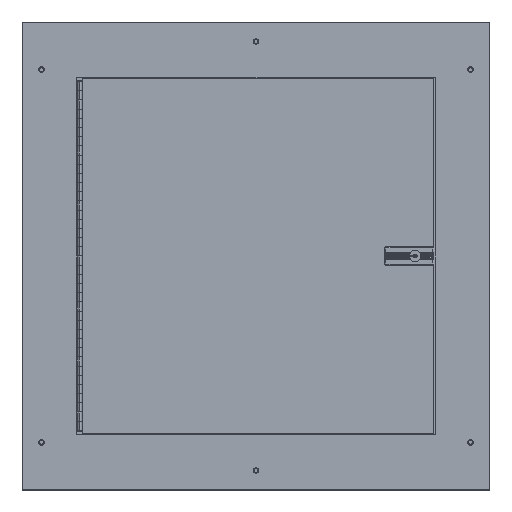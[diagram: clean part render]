
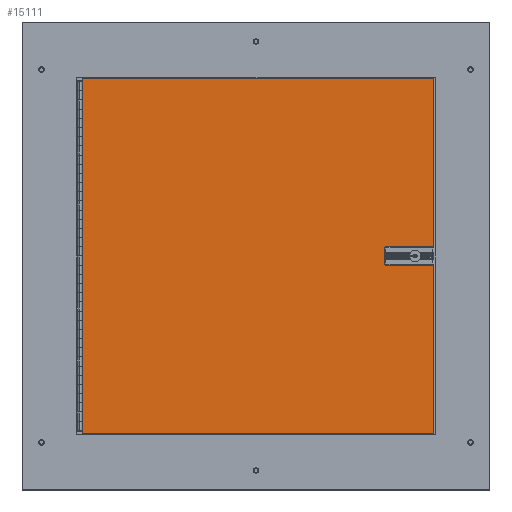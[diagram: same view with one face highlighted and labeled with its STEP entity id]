
A CAD part, top view. The second image highlights one B-rep face of the part: STEP entity #15111.
In plain terms, the highlighted planar face has unit normal (0, 0, 1).
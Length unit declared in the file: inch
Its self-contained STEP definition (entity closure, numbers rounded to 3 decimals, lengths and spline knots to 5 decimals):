
#18 = EDGE_LOOP ( 'NONE', ( #14782, #15156, #15159, #15162 ) ) ;
#6872 = DIRECTION ( 'NONE',  ( -1., 0., 0. ) ) ;
#6873 = DIRECTION ( 'NONE',  ( 0., 0., -1. ) ) ;
#6874 = CARTESIAN_POINT ( 'NONE',  ( -9.565, 9.65, 0.097 ) ) ;
#6875 = AXIS2_PLACEMENT_3D ( 'NONE', #6874, #6873, #6872 ) ;
#6876 = PLANE ( 'NONE',  #6875 ) ;
#6877 = FACE_BOUND ( 'NONE', #18, .T. ) ;
#6878 = FACE_OUTER_BOUND ( 'NONE', #15108, .T. ) ;
#6879 = CARTESIAN_POINT ( 'NONE',  ( 7.43, -0.51, 0.097 ) ) ;
#6880 = CARTESIAN_POINT ( 'NONE',  ( 7.43, 0.51, 0.097 ) ) ;
#6881 = DIRECTION ( 'NONE',  ( 0., -1., 0. ) ) ;
#6882 = VECTOR ( 'NONE', #6881, 39.37008 ) ;
#6883 = CARTESIAN_POINT ( 'NONE',  ( 7.43, -0.51, 0.097 ) ) ;
#6884 = LINE ( 'NONE', #6883, #6882 ) ;
#6931 = DIRECTION ( 'NONE',  ( 0., -1., 0. ) ) ;
#6932 = VECTOR ( 'NONE', #6931, 39.37008 ) ;
#6933 = CARTESIAN_POINT ( 'NONE',  ( -9.565, -9.65, 0.097 ) ) ;
#6934 = LINE ( 'NONE', #6933, #6932 ) ;
#6935 = CARTESIAN_POINT ( 'NONE',  ( 9.15, 0.51, 0.097 ) ) ;
#6936 = DIRECTION ( 'NONE',  ( -1., 0., 0. ) ) ;
#6937 = VECTOR ( 'NONE', #6936, 39.37008 ) ;
#6938 = CARTESIAN_POINT ( 'NONE',  ( 7.43, 0.51, 0.097 ) ) ;
#6939 = LINE ( 'NONE', #6938, #6937 ) ;
#6965 = DIRECTION ( 'NONE',  ( 0., 1., 0. ) ) ;
#6966 = VECTOR ( 'NONE', #6965, 39.37008 ) ;
#6967 = CARTESIAN_POINT ( 'NONE',  ( 9.565, -9.65, 0.097 ) ) ;
#6968 = LINE ( 'NONE', #6967, #6966 ) ;
#6969 = CARTESIAN_POINT ( 'NONE',  ( 9.565, -9.65, 0.097 ) ) ;
#6970 = DIRECTION ( 'NONE',  ( 1., 0., 0. ) ) ;
#6971 = VECTOR ( 'NONE', #6970, 39.37008 ) ;
#6972 = CARTESIAN_POINT ( 'NONE',  ( -9.565, -9.65, 0.097 ) ) ;
#6973 = LINE ( 'NONE', #6972, #6971 ) ;
#6974 = CARTESIAN_POINT ( 'NONE',  ( -9.565, -9.65, 0.097 ) ) ;
#6975 = CARTESIAN_POINT ( 'NONE',  ( -9.565, 9.65, 0.097 ) ) ;
#6989 = DIRECTION ( 'NONE',  ( 1., 0., 0. ) ) ;
#6990 = VECTOR ( 'NONE', #6989, 39.37008 ) ;
#6991 = CARTESIAN_POINT ( 'NONE',  ( 7.43, -0.51, 0.097 ) ) ;
#6992 = LINE ( 'NONE', #6991, #6990 ) ;
#6993 = CARTESIAN_POINT ( 'NONE',  ( 9.15, -0.51, 0.097 ) ) ;
#6994 = DIRECTION ( 'NONE',  ( 0., 1., 0. ) ) ;
#6995 = VECTOR ( 'NONE', #6994, 39.37008 ) ;
#6996 = CARTESIAN_POINT ( 'NONE',  ( 9.15, -0.51, 0.097 ) ) ;
#6997 = LINE ( 'NONE', #6996, #6995 ) ;
#7035 = DIRECTION ( 'NONE',  ( -1., 0., 0. ) ) ;
#7037 = VECTOR ( 'NONE', #7035, 39.37008 ) ;
#7038 = CARTESIAN_POINT ( 'NONE',  ( -9.565, 9.65, 0.097 ) ) ;
#7039 = LINE ( 'NONE', #7038, #7037 ) ;
#7040 = CARTESIAN_POINT ( 'NONE',  ( 9.565, 9.65, 0.097 ) ) ;
#14782 = ORIENTED_EDGE ( 'NONE', *, *, #15097, .F. ) ;
#15097 = EDGE_CURVE ( 'NONE', #15098, #15099, #6884, .T. ) ;
#15098 = VERTEX_POINT ( 'NONE', #6880 ) ;
#15099 = VERTEX_POINT ( 'NONE', #6879 ) ;
#15108 = EDGE_LOOP ( 'NONE', ( #15112, #15172, #15175, #15178 ) ) ;
#15111 = ADVANCED_FACE ( 'NONE', ( #6878, #6877 ), #6876, .F. ) ;
#15112 = ORIENTED_EDGE ( 'NONE', *, *, #15113, .T. ) ;
#15113 = EDGE_CURVE ( 'NONE', #15170, #15171, #6934, .T. ) ;
#15156 = ORIENTED_EDGE ( 'NONE', *, *, #15157, .F. ) ;
#15157 = EDGE_CURVE ( 'NONE', #15158, #15098, #6939, .T. ) ;
#15158 = VERTEX_POINT ( 'NONE', #6935 ) ;
#15159 = ORIENTED_EDGE ( 'NONE', *, *, #15160, .F. ) ;
#15160 = EDGE_CURVE ( 'NONE', #15161, #15158, #6997, .T. ) ;
#15161 = VERTEX_POINT ( 'NONE', #6993 ) ;
#15162 = ORIENTED_EDGE ( 'NONE', *, *, #15163, .F. ) ;
#15163 = EDGE_CURVE ( 'NONE', #15099, #15161, #6992, .T. ) ;
#15170 = VERTEX_POINT ( 'NONE', #6975 ) ;
#15171 = VERTEX_POINT ( 'NONE', #6974 ) ;
#15172 = ORIENTED_EDGE ( 'NONE', *, *, #15173, .T. ) ;
#15173 = EDGE_CURVE ( 'NONE', #15171, #15174, #6973, .T. ) ;
#15174 = VERTEX_POINT ( 'NONE', #6969 ) ;
#15175 = ORIENTED_EDGE ( 'NONE', *, *, #15176, .T. ) ;
#15176 = EDGE_CURVE ( 'NONE', #15174, #15177, #6968, .T. ) ;
#15177 = VERTEX_POINT ( 'NONE', #7040 ) ;
#15178 = ORIENTED_EDGE ( 'NONE', *, *, #15179, .T. ) ;
#15179 = EDGE_CURVE ( 'NONE', #15177, #15170, #7039, .T. ) ;
